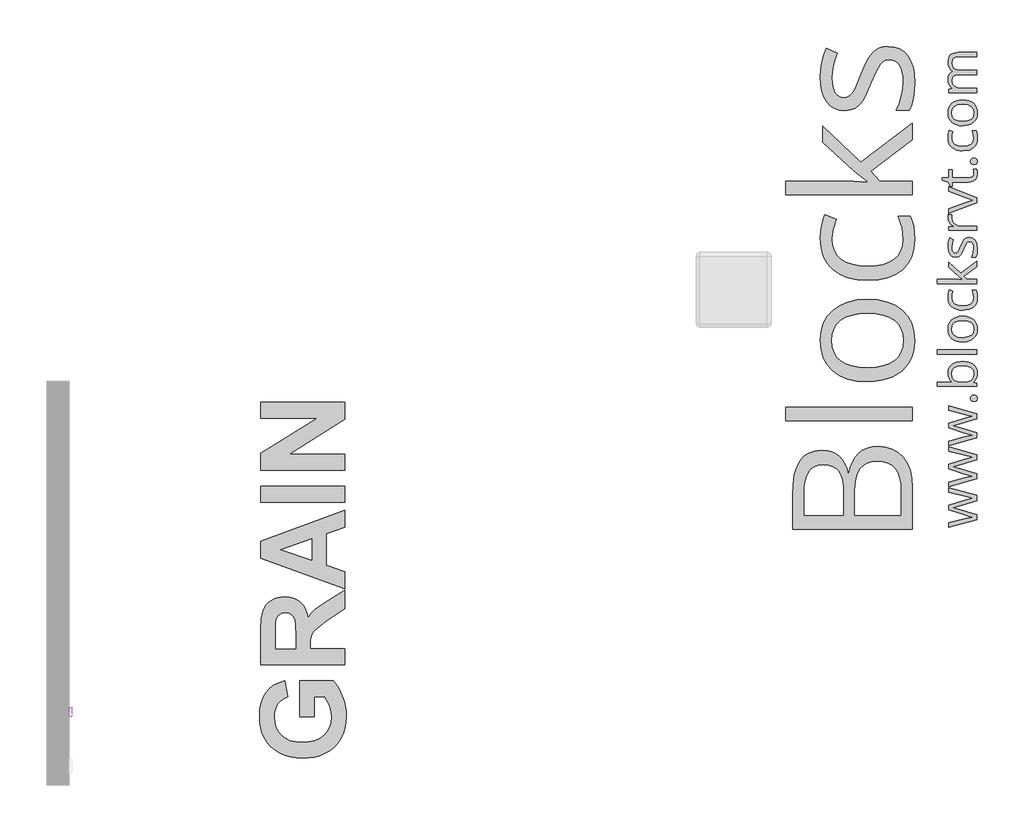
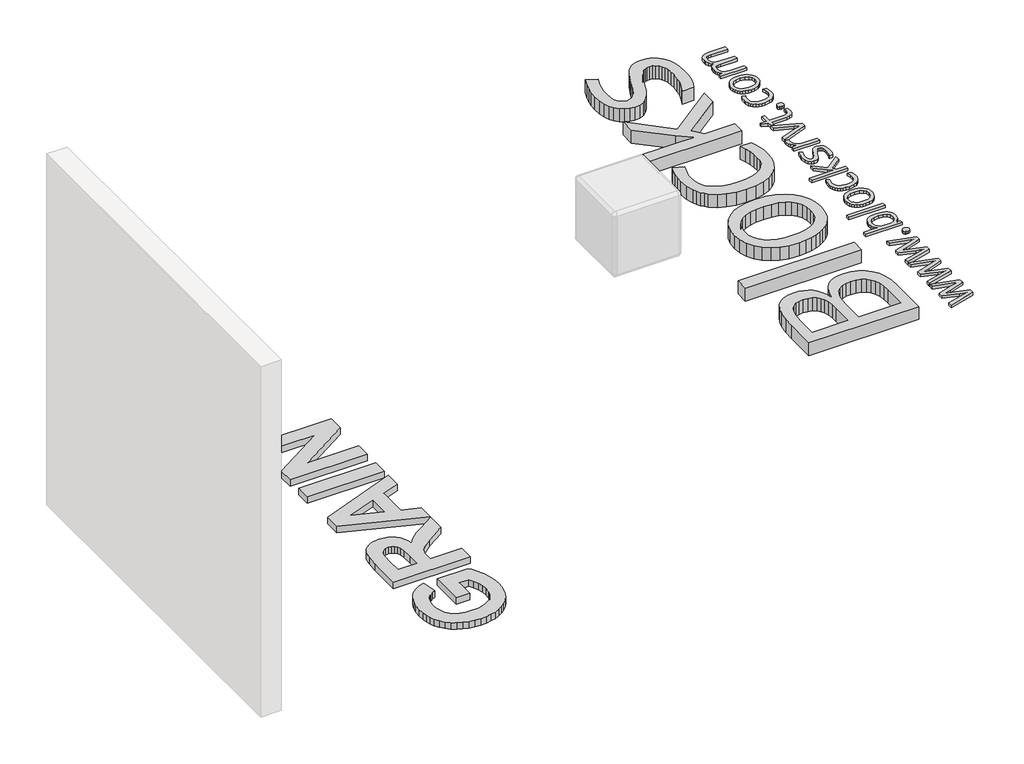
# One storey, part 10 of 10: 4 proxies.
"""IFC4 building model written with IfcOpenShell, lengths in millimetres."""

from ifc_helpers import new_model, si_unit, frame, origin, origin_with_axes, place, context, project, spatial, polyline, outline, extrude, element, save

model = new_model("IFC4")

# Units and contexts
model_context = context("Model", 3, world=origin())
ifc_project = project(units=[si_unit("LENGTHUNIT", "METRE", prefix="MILLI")], contexts=[model_context])

# Site, building, storey
site = spatial("IfcSite", under=ifc_project)
building = spatial("IfcBuilding", under=site)
storey = spatial("IfcBuildingStorey", under=building, Name="PORTOBELLO - SHOWROOM", Elevation=0.0)

# Proxies
placement = place(None, origin())
element("IfcBuildingElementProxy", 1, Name="10mm Arial Narrow", ObjectType="10mm Arial Narrow", at=placement, inside=storey, context=model_context, shape_type="SweptSolid", body=[
    extrude(outline(polyline([(5859.3713743, 2518.4745677), (5859.3713743, 2619.1931714), (5890.6682589, 2619.1931714), (5906.9639605, 2617.3148507), (5918.4369466, 2607.8344075), (5922.726625, 2590.8152987), (5920.9403166, 2578.7394731), (5915.5813914, 2569.1130794), (5905.8376026, 2562.811821), (5890.8967034, 2560.7114015), (5869.1183359, 2560.7114015), (5869.1183359, 2518.4745677), (5859.3713743, 2518.4745677)]), holes=[polyline([(5869.1183359, 2572.0828568), (5892.0896909, 2572.0828568), (5907.9538863, 2576.613671), (5912.9796634, 2590.2822617), (5910.5048489, 2600.4480381), (5904.52722, 2606.247988), (5891.8612464, 2607.8217162), (5869.1183359, 2607.8217162), (5869.1183359, 2572.0828568)])]), frame((-23726.2609603, 0.0, 0.0), z_axis=(1.0, 0.0, 0.0), x_axis=(0.0, 1.0, 0.0)), (0.0, 0.0, 1.0), 20.0),
    extrude(outline(polyline([(5930.8490931, 2555.0256739), (5932.8035619, 2571.6164494), (5938.6669685, 2583.5685342), (5947.5255353, 2590.7930888), (5958.4654844, 2593.2012737), (5969.27852, 2590.7930888), (5978.1624694, 2583.5685342), (5984.1020242, 2571.8068198), (5986.0818758, 2555.7871552), (5984.1369254, 2538.6252687), (5978.3020743, 2526.4828135), (5969.4530261, 2519.2582589), (5958.4654844, 2516.8500741), (5947.6048562, 2519.2646046), (5938.7304253, 2526.5081962), (5932.8194261, 2538.4666267), (5930.8490931, 2555.0256739)]), holes=[polyline([(5940.5960547, 2555.0510566), (5941.9000916, 2542.4993052), (5945.8122022, 2533.6280471), (5951.6533989, 2528.3547886), (5958.7446942, 2526.5970357), (5965.4647674, 2528.3706528), (5971.1568407, 2533.6915039), (5975.0403958, 2542.5786262), (5976.3349141, 2555.0510566), (5975.0308772, 2567.5647339), (5971.1187667, 2576.4233006), (5965.2775699, 2581.6965592), (5958.1862746, 2583.454312), (5951.4186088, 2581.6870407), (5945.736054, 2576.3852265), (5941.8810545, 2567.5171413), (5940.5960547, 2555.0510566)])]), frame((-23726.2609603, 0.0, 0.0), z_axis=(1.0, 0.0, 0.0), x_axis=(0.0, 1.0, 0.0)), (0.0, 0.0, 1.0), 20.0),
    extrude(outline(polyline([(6057.5595946, 2526.5970357), (6059.1840882, 2516.8500741), (6051.8231015, 2516.8500741), (6043.5483372, 2518.9695306), (6039.233276, 2524.7694804), (6038.0656712, 2539.4153056), (6038.0656712, 2581.8298184), (6029.9432032, 2581.8298184), (6029.9432032, 2585.0788056), (6028.3187096, 2580.2053248), (6020.7546612, 2581.8298184), (6014.6755015, 2579.5073002), (6010.8046379, 2573.0220171), (6008.8247863, 2557.6147106), (6008.8247863, 2518.4745677), (5999.0778246, 2518.4745677), (5999.0778246, 2591.5767801), (6008.8247863, 2591.5767801), (6008.8247863, 2581.8805838), (6015.0689336, 2590.967595), (6021.4653772, 2593.2012737), (6029.9432032, 2591.5767801), (6038.0656712, 2591.5767801), (6038.0656712, 2607.8217162), (6047.8126329, 2615.9441842), (6047.8126329, 2591.5767801), (6057.5595946, 2591.5767801), (6057.5595946, 2581.8298184), (6047.8126329, 2581.8298184), (6047.8126329, 2537.1816269), (6048.6756451, 2529.1860724), (6053.2952988, 2526.5970357), (6057.5595946, 2526.5970357)])), frame((-23726.2609603, 0.0, 0.0), z_axis=(1.0, 0.0, 0.0), x_axis=(0.0, 1.0, 0.0)), (0.0, 0.0, 1.0), 20.0),
    extrude(outline(polyline([(6064.057569, 2555.0256739), (6066.0120379, 2571.6164494), (6071.8754445, 2583.5685342), (6080.7340112, 2590.7930888), (6091.6739603, 2593.2012737), (6102.4869959, 2590.7930888), (6111.3709453, 2583.5685342), (6117.3105001, 2571.8068198), (6119.2903517, 2555.7871552), (6117.3454013, 2538.6252687), (6111.5105503, 2526.4828135), (6102.6615021, 2519.2582589), (6091.6739603, 2516.8500741), (6080.8133322, 2519.2646046), (6071.9389013, 2526.5081962), (6066.0279021, 2538.4666267), (6064.057569, 2555.0256739)]), holes=[polyline([(6073.8045306, 2555.0510566), (6075.1085675, 2542.4993052), (6079.0206781, 2533.6280471), (6084.8618748, 2528.3547886), (6091.9531702, 2526.5970357), (6098.6732433, 2528.3706528), (6104.3653167, 2533.6915039), (6108.2488717, 2542.5786262), (6109.54339, 2555.0510566), (6108.2393532, 2567.5647339), (6104.3272426, 2576.4233006), (6098.4860458, 2581.6965592), (6091.3947505, 2583.454312), (6084.6270847, 2581.6870407), (6078.94453, 2576.3852265), (6075.0895305, 2567.5171413), (6073.8045306, 2555.0510566)])]), frame((-23726.2609603, 0.0, 0.0), z_axis=(1.0, 0.0, 0.0), x_axis=(0.0, 1.0, 0.0)), (0.0, 0.0, 1.0), 20.0),
    extrude(outline(polyline([(6142.0332622, 2518.4745677), (6132.2863006, 2518.4745677), (6132.2863006, 2619.1931714), (6142.0332622, 2619.1931714), (6142.0332622, 2583.7842873), (6149.4323229, 2590.8660641), (6158.6335563, 2593.2012737), (6171.5152829, 2589.0004347), (6180.7926644, 2576.2710043), (6184.270096, 2555.5840935), (6182.337837, 2539.1297501), (6176.54106, 2526.927011), (6168.1679377, 2519.3693083), (6158.5066427, 2516.8500741), (6149.1658045, 2519.4644935), (6142.0332622, 2527.2316035), (6142.0332622, 2518.4745677)]), holes=[polyline([(6142.0332622, 2555.5840935), (6144.1146447, 2538.3365403), (6150.003434, 2529.6048872), (6158.4558773, 2526.5970357), (6164.3986049, 2528.3865169), (6169.6369622, 2533.7549607), (6174.5231344, 2555.1779701), (6169.8146412, 2576.613671), (6164.5699382, 2581.7441518), (6158.2528156, 2583.454312), (6152.2751868, 2581.6648308), (6146.9828912, 2576.2963871), (6142.0332622, 2555.5840935)])]), frame((-23726.2609603, 0.0, 0.0), z_axis=(1.0, 0.0, 0.0), x_axis=(0.0, 1.0, 0.0)), (0.0, 0.0, 1.0), 20.0),
    extrude(outline(polyline([(6236.2538915, 2541.2174782), (6246.0008532, 2539.5929846), (6242.3013228, 2529.706418), (6236.4823359, 2522.5865671), (6228.7786827, 2518.2841973), (6219.4251531, 2516.8500741), (6207.8315991, 2519.2646046), (6198.6874768, 2526.5081962), (6192.7479221, 2538.3143304), (6190.7680705, 2554.4164888), (6192.7574406, 2571.0834124), (6198.7255509, 2583.2639417), (6207.7395867, 2590.7169407), (6218.8667334, 2593.2012737), (6229.5496826, 2590.8026073), (6238.2971999, 2583.6066083), (6244.132051, 2571.8671037), (6246.0770013, 2555.8379207), (6246.0008532, 2552.5889335), (6200.5150321, 2552.5889335), (6206.5180437, 2533.1457756), (6212.4480799, 2528.2342207), (6219.5520666, 2526.5970357), (6229.7305344, 2530.2521463), (6236.2538915, 2541.2174782)]), holes=[polyline([(6201.1749827, 2562.3358951), (6236.2538915, 2562.3358951), (6231.9895958, 2576.6009796), (6226.1642633, 2581.7409789), (6218.9428815, 2583.454312), (6206.7337967, 2577.7432017), (6201.1749827, 2562.3358951)])]), frame((-23726.2609603, 0.0, 0.0), z_axis=(1.0, 0.0, 0.0), x_axis=(0.0, 1.0, 0.0)), (0.0, 0.0, 1.0), 20.0),
    extrude(outline(polyline([(-23706.2609603, 6268.7437637), (-23706.2609603, 6258.9968021), (-23726.2609603, 6258.9968021), (-23726.2609603, 6268.7437637), (-23706.2609603, 6268.7437637)])), frame((0.0, 0.0, 2518.4745677), z_axis=(0.0, 0.0, 1.0), x_axis=(1.0, 0.0, 0.0)), (0.0, 0.0, 1.0), 100.7186038),
    extrude(outline(polyline([(-23706.2609603, 6294.7356615), (-23706.2609603, 6284.9886998), (-23726.2609603, 6284.9886998), (-23726.2609603, 6294.7356615), (-23706.2609603, 6294.7356615)])), frame((0.0, 0.0, 2518.4745677), z_axis=(0.0, 0.0, 1.0), x_axis=(1.0, 0.0, 0.0)), (0.0, 0.0, 1.0), 100.7186038),
    extrude(outline(polyline([(6306.1071167, 2555.0256739), (6308.0615856, 2571.6164494), (6313.9249922, 2583.5685342), (6322.7835589, 2590.7930888), (6333.7235081, 2593.2012737), (6344.5365437, 2590.7930888), (6353.4204931, 2583.5685342), (6359.3600478, 2571.8068198), (6361.3398994, 2555.7871552), (6359.3949491, 2538.6252687), (6353.560098, 2526.4828135), (6344.7110498, 2519.2582589), (6333.7235081, 2516.8500741), (6322.8628799, 2519.2646046), (6313.988449, 2526.5081962), (6308.0774498, 2538.4666267), (6306.1071167, 2555.0256739)]), holes=[polyline([(6315.8540784, 2555.0510566), (6317.1581152, 2542.4993052), (6321.0702258, 2533.6280471), (6326.9114226, 2528.3547886), (6334.0027179, 2526.5970357), (6340.7227911, 2528.3706528), (6346.4148644, 2533.6915039), (6350.2984194, 2542.5786262), (6351.5929378, 2555.0510566), (6350.2889009, 2567.5647339), (6346.3767903, 2576.4233006), (6340.5355936, 2581.6965592), (6333.4442982, 2583.454312), (6326.6766325, 2581.6870407), (6320.9940777, 2576.3852265), (6317.1390782, 2567.5171413), (6315.8540784, 2555.0510566)])]), frame((-23726.2609603, 0.0, 0.0), z_axis=(1.0, 0.0, 0.0), x_axis=(0.0, 1.0, 0.0)), (0.0, 0.0, 1.0), 20.0),
])
element("IfcBuildingElementProxy", 2, Name="25mm OpenSans", ObjectType="25mm OpenSans", at=placement, inside=storey, context=model_context, shape_type="SweptSolid", body=[
    extrude(outline(polyline([(-17663.6650002, 7304.8592134), (-17773.4766436, 7270.379107), (-17819.200263, 7258.1611562), (-17773.1018598, 7244.7438974), (-17663.6650002, 7209.2143964), (-17663.6650002, 7176.3083818), (-17850.757056, 7124.9630059), (-17850.757056, 7154.7957937), (-17743.4189856, 7182.5297923), (-17693.7226582, 7193.4734783), (-17718.9081273, 7200.8941968), (-17743.4189856, 7208.2399586), (-17850.757056, 7242.7200651), (-17850.757056, 7273.6022474), (-17743.3440288, 7307.2578295), (-17694.0224852, 7320.3003046), (-17712.9865438, 7325.3973638), (-17850.757056, 7361.151735), (-17850.757056, 7390.6846958), (-17663.6650002, 7338.6647091), (-17663.6650002, 7304.8592134)])), origin_with_axes(), (0.0, 0.0, 1.0), 20.0),
    extrude(outline(polyline([(-17663.6650002, 7578.3014488), (-17773.4766436, 7543.8213424), (-17819.200263, 7531.6033916), (-17773.1018598, 7518.1861328), (-17663.6650002, 7482.6566319), (-17663.6650002, 7449.7506172), (-17850.757056, 7398.4052413), (-17850.757056, 7428.2380291), (-17743.4189856, 7455.9720277), (-17693.7226582, 7466.9157137), (-17718.9081273, 7474.3364323), (-17743.4189856, 7481.6821941), (-17850.757056, 7516.1623005), (-17850.757056, 7547.0444828), (-17743.3440288, 7580.7000649), (-17694.0224852, 7593.74254), (-17712.9865438, 7598.8395992), (-17850.757056, 7634.5939704), (-17850.757056, 7664.1269312), (-17663.6650002, 7612.1069445), (-17663.6650002, 7578.3014488)])), origin_with_axes(), (0.0, 0.0, 1.0), 20.0),
    extrude(outline(polyline([(-17663.6650002, 7851.7436843), (-17773.4766436, 7817.2635778), (-17819.200263, 7805.0456271), (-17773.1018598, 7791.6283683), (-17663.6650002, 7756.0988673), (-17663.6650002, 7723.1928527), (-17850.757056, 7671.8474768), (-17850.757056, 7701.6802645), (-17743.4189856, 7729.4142632), (-17693.7226582, 7740.3579491), (-17718.9081273, 7747.7786677), (-17743.4189856, 7755.1244295), (-17850.757056, 7789.6045359), (-17850.757056, 7820.4867182), (-17743.3440288, 7854.1423004), (-17694.0224852, 7867.1847754), (-17712.9865438, 7872.2818346), (-17850.757056, 7908.0362059), (-17850.757056, 7937.5691666), (-17663.6650002, 7885.5491799), (-17663.6650002, 7851.7436843)])), origin_with_axes(), (0.0, 0.0, 1.0), 20.0),
    extrude(outline(polyline([(-17682.7789723, 7966.7273436), (-17693.1885914, 7968.0297172), (-17700.7311146, 7971.9368379), (-17705.3128462, 7978.2800531), (-17706.84009, 7986.8907102), (-17705.3128462, 7995.7543462), (-17700.7311146, 8002.4067581), (-17693.1885914, 8006.5668579), (-17682.7789723, 8007.9535578), (-17672.5754842, 8006.5387491), (-17665.0517002, 8002.2943229), (-17660.4137511, 7995.6138023), (-17658.867768, 7986.8907102), (-17664.4520461, 7972.4615352), (-17671.8259167, 7968.1608915), (-17682.7789723, 7966.7273436)])), origin_with_axes(), (0.0, 0.0, 1.0), 20.0),
    extrude(outline(polyline([(-17855.5542882, 8155.0936642), (-17853.95443, 8172.67805), (-17849.1548554, 8188.1777011), (-17841.1555644, 8201.5926175), (-17829.956557, 8212.9227992), (-17815.8342363, 8221.9246368), (-17799.0650052, 8228.3545208), (-17757.5858119, 8233.498428), (-17715.9660747, 8228.3076728), (-17699.0773813, 8221.8192289), (-17684.8028046, 8212.7354074), (-17673.4562261, 8201.3513505), (-17665.3515272, 8187.9622004), (-17660.4887078, 8172.5679573), (-17658.867768, 8155.1686209), (-17660.5824037, 8137.5256752), (-17665.7263109, 8121.4755604), (-17674.4306639, 8107.4680172), (-17686.8266369, 8095.952786), (-17686.8266369, 8093.8539969), (-17663.6650002, 8087.8574566), (-17663.6650002, 8067.5441765), (-17927.5127712, 8067.5441765), (-17927.5127712, 8095.8778292), (-17864.9238824, 8095.8778292), (-17827.1456788, 8094.5286077), (-17839.5744454, 8107.0838638), (-17848.4521359, 8120.6885145), (-17853.7787501, 8136.6917813), (-17855.5542882, 8155.0936642)]), holes=[polyline([(-17831.5681272, 8151.1209563), (-17827.3330707, 8125.8511609), (-17814.627901, 8108.8078691), (-17791.8972656, 8099.1103392), (-17757.5858119, 8095.8778292), (-17723.1338142, 8099.2040351), (-17700.1314606, 8109.1826529), (-17687.1733119, 8126.4882933), (-17682.853929, 8151.7955671), (-17687.6980092, 8174.8728774), (-17702.2302497, 8191.1853408), (-17725.8322573, 8200.8828708), (-17757.8856389, 8204.1153807), (-17790.3325434, 8200.8828708), (-17813.3161578, 8191.1853408), (-17827.0051349, 8174.7042247), (-17831.5681272, 8151.1209563)])]), origin_with_axes(), (0.0, 0.0, 1.0), 20.0),
    extrude(outline(polyline([(-17663.6650002, 8310.7788404), (-17663.6650002, 8282.4451878), (-17927.5127712, 8282.4451878), (-17927.5127712, 8310.7788404), (-17663.6650002, 8310.7788404)])), origin_with_axes(), (0.0, 0.0, 1.0), 20.0),
    extrude(outline(polyline([(-17757.3609416, 8535.7240566), (-17735.4337489, 8534.2834815), (-17716.0504011, 8529.9617562), (-17699.210898, 8522.7588807), (-17684.9152397, 8512.674855), (-17673.5194709, 8500.0563541), (-17665.3796359, 8485.250053), (-17660.495735, 8468.2559516), (-17658.867768, 8449.07405), (-17661.8566685, 8425.3783464), (-17670.8233701, 8404.5122602), (-17685.3743498, 8387.2815766), (-17705.1160847, 8374.4920806), (-17729.3458551, 8366.565404), (-17757.3609416, 8363.9231784), (-17779.2787647, 8365.3520415), (-17798.6340038, 8369.6386308), (-17815.4266589, 8376.7829464), (-17829.65673, 8386.7849881), (-17840.9869117, 8399.3261899), (-17849.0798987, 8414.0879854), (-17853.9356908, 8431.0703748), (-17855.5542882, 8450.273358), (-17853.8982125, 8468.86966), (-17848.9299852, 8485.456184), (-17840.6496064, 8500.0329301), (-17829.057076, 8512.5998983), (-17814.639613, 8522.7167175), (-17797.8844363, 8529.943017), (-17778.7915458, 8534.2787967), (-17757.3609416, 8535.7240566)]), holes=[polyline([(-17757.5858119, 8393.3811824), (-17725.4293648, 8396.9603674), (-17701.9679011, 8407.6979222), (-17687.632422, 8425.3689768), (-17682.853929, 8449.7486608), (-17687.6136828, 8474.1470839), (-17701.8929443, 8491.874356), (-17725.3356689, 8502.6681285), (-17757.5858119, 8506.2660526), (-17789.5080191, 8502.6681285), (-17812.7165038, 8491.874356), (-17826.8552214, 8474.053388), (-17831.5681272, 8449.373877), (-17826.9208085, 8425.041041), (-17812.9788525, 8407.5105304), (-17789.8359549, 8396.9135194), (-17757.5858119, 8393.3811824)])]), origin_with_axes(), (0.0, 0.0, 1.0), 20.0),
    extrude(outline(polyline([(-17658.867768, 8661.1267046), (-17660.4535718, 8641.7831775), (-17665.2109833, 8624.7539401), (-17673.1400023, 8610.0389925), (-17684.240629, 8597.6383347), (-17698.241145, 8587.8002608), (-17714.8698322, 8580.7730652), (-17756.0117201, 8575.1513087), (-17778.4589252, 8576.5778294), (-17798.2030025, 8580.8573916), (-17815.2439518, 8587.9899951), (-17829.5817733, 8597.9756401), (-17840.9447486, 8610.5988258), (-17849.0611595, 8625.6440516), (-17853.931006, 8643.1113174), (-17855.5542882, 8663.0006234), (-17852.7808884, 8690.2474032), (-17846.2596508, 8711.5725994), (-17822.7981871, 8702.8026593), (-17829.057076, 8682.0771171), (-17831.5681272, 8662.2510559), (-17826.8786454, 8637.0327932), (-17812.8101998, 8619.0197485), (-17789.3627904, 8608.2119217), (-17756.5364173, 8604.6093127), (-17725.0733202, 8608.1229105), (-17701.8929443, 8618.6637039), (-17687.6136828, 8636.1005186), (-17682.853929, 8660.3021803), (-17685.3837194, 8684.2696021), (-17692.9730907, 8708.7991996), (-17668.3123189, 8708.7991996), (-17661.2289057, 8687.3990466), (-17658.867768, 8661.1267046)])), origin_with_axes(), (0.0, 0.0, 1.0), 20.0),
    extrude(outline(polyline([(-17757.5108551, 8780.3828988), (-17785.3947673, 8803.2447085), (-17850.757056, 8863.210111), (-17850.757056, 8896.5658662), (-17771.0030707, 8821.309286), (-17663.6650002, 8901.8128389), (-17663.6650002, 8867.7075162), (-17750.0151798, 8802.1203572), (-17732.0255591, 8781.1324663), (-17663.6650002, 8781.1324663), (-17663.6650002, 8753.0986407), (-17927.5127712, 8753.0986407), (-17927.5127712, 8781.1324663), (-17786.5191186, 8781.1324663), (-17757.5108551, 8780.3828988)])), origin_with_axes(), (0.0, 0.0, 1.0), 20.0),
    extrude(outline(polyline([(-17714.1108951, 9062.0703771), (-17690.6213226, 9057.1700793), (-17673.2219862, 9042.4691861), (-17662.4563226, 9018.9233961), (-17658.867768, 8987.4884077), (-17661.8285598, 8954.1888701), (-17670.710935, 8929.097097), (-17697.2456256, 8929.097097), (-17686.7142018, 8958.255274), (-17682.853929, 8988.2379752), (-17684.6341519, 9008.0546669), (-17689.9748206, 9022.6806033), (-17698.9696309, 9031.7035225), (-17711.712279, 9034.7111622), (-17722.0000933, 9032.3219157), (-17730.6763375, 9025.1541762), (-17749.2656123, 8987.9381482), (-17766.5056655, 8950.5347284), (-17783.1835431, 8934.0067644), (-17805.5581339, 8928.5723998), (-17826.2836761, 8933.2571968), (-17842.1370294, 8947.311588), (-17852.1999735, 8969.5362653), (-17855.5542882, 8998.7319207), (-17852.443583, 9028.7708395), (-17843.1114672, 9058.1726259), (-17819.9498305, 9047.9785075), (-17828.663553, 9020.9191196), (-17831.5681272, 8996.5581748), (-17829.9659266, 8978.7372068), (-17825.1593248, 8965.9008628), (-17817.5231056, 8958.1428389), (-17807.4320527, 8955.5568309), (-17794.4270561, 8959.4171037), (-17784.2329376, 8971.8974031), (-17770.1785464, 9004.9533312), (-17757.8481605, 9033.0340048), (-17745.4428179, 9050.2646885), (-17731.3884267, 9059.1189549), (-17714.1108951, 9062.0703771)])), origin_with_axes(), (0.0, 0.0, 1.0), 20.0),
    extrude(outline(polyline([(-17855.5542882, 9194.5189599), (-17853.6803694, 9217.1558993), (-17829.0195976, 9213.1831914), (-17831.5681272, 9192.4951275), (-17826.8739606, 9171.1605617), (-17812.7914606, 9153.1803105), (-17791.7005042, 9140.9529902), (-17765.9809682, 9136.8772167), (-17663.6650002, 9136.8772167), (-17663.6650002, 9108.543564), (-17850.757056, 9108.543564), (-17850.757056, 9131.930071), (-17817.1764306, 9135.1532114), (-17833.4982636, 9148.1394689), (-17845.5850401, 9161.9127723), (-17853.0619762, 9177.4850377), (-17855.5542882, 9194.5189599)])), origin_with_axes(), (0.0, 0.0, 1.0), 20.0),
    extrude(outline(polyline([(-17663.6650002, 9294.1364848), (-17850.757056, 9222.1780018), (-17850.757056, 9252.9852273), (-17739.8210614, 9293.8366578), (-17689.3002098, 9310.0273164), (-17726.7785864, 9323.4445752), (-17850.757056, 9368.8683676), (-17850.757056, 9399.6755932), (-17663.6650002, 9327.7171102), (-17663.6650002, 9294.1364848)])), origin_with_axes(), (0.0, 0.0, 1.0), 20.0),
    extrude(outline(polyline([(-17682.853929, 9491.0478752), (-17683.9782803, 9505.7393989), (-17686.3019397, 9516.9829118), (-17664.1147407, 9516.9829118), (-17660.3669031, 9503.265826), (-17658.867768, 9487.0002106), (-17662.4282138, 9462.9953104), (-17673.1095511, 9445.8489531), (-17690.91178, 9435.5611387), (-17715.8349004, 9432.1318673), (-17826.770895, 9432.1318673), (-17826.770895, 9404.9975227), (-17840.7878079, 9404.9975227), (-17852.9308019, 9431.9819538), (-17893.9321458, 9444.049991), (-17893.9321458, 9460.5404767), (-17850.757056, 9460.5404767), (-17850.757056, 9515.6336903), (-17826.770895, 9515.6336903), (-17826.770895, 9460.5404767), (-17717.5589057, 9460.5404767), (-17702.7268382, 9462.5736787), (-17691.811261, 9468.6732844), (-17685.093262, 9478.333336), (-17682.853929, 9491.0478752)])), origin_with_axes(), (0.0, 0.0, 1.0), 20.0),
    extrude(outline(polyline([(-17682.7789723, 9549.8139697), (-17693.1885914, 9551.1163433), (-17700.7311146, 9555.023464), (-17705.3128462, 9561.3666793), (-17706.84009, 9569.9773363), (-17705.3128462, 9578.8409724), (-17700.7311146, 9585.4933842), (-17693.1885914, 9589.653484), (-17682.7789723, 9591.0401839), (-17672.5754842, 9589.6253752), (-17665.0517002, 9585.3809491), (-17660.4137511, 9578.7004284), (-17658.867768, 9569.9773363), (-17664.4520461, 9555.5481613), (-17671.8259167, 9551.2475176), (-17682.7789723, 9549.8139697)])), origin_with_axes(), (0.0, 0.0, 1.0), 20.0),
    extrude(outline(polyline([(-17658.867768, 9726.1122531), (-17660.4535718, 9706.768726), (-17665.2109833, 9689.7394886), (-17673.1400023, 9675.024541), (-17684.240629, 9662.6238832), (-17698.241145, 9652.7858093), (-17714.8698322, 9645.7586137), (-17756.0117201, 9640.1368572), (-17778.4589252, 9641.5633779), (-17798.2030025, 9645.8429401), (-17815.2439518, 9652.9755436), (-17829.5817733, 9662.9611886), (-17840.9447486, 9675.5843743), (-17849.0611595, 9690.6296001), (-17853.931006, 9708.0968659), (-17855.5542882, 9727.9861719), (-17852.7808884, 9755.2329517), (-17846.2596508, 9776.5581479), (-17822.7981871, 9767.7882078), (-17829.057076, 9747.0626656), (-17831.5681272, 9727.2366044), (-17826.8786454, 9702.0183417), (-17812.8101998, 9684.005297), (-17789.3627904, 9673.1974702), (-17756.5364173, 9669.5948612), (-17725.0733202, 9673.108459), (-17701.8929443, 9683.6492524), (-17687.6136828, 9701.0860671), (-17682.853929, 9725.2877288), (-17685.3837194, 9749.2551506), (-17692.9730907, 9773.7847481), (-17668.3123189, 9773.7847481), (-17661.2289057, 9752.384595), (-17658.867768, 9726.1122531)])), origin_with_axes(), (0.0, 0.0, 1.0), 20.0),
    extrude(outline(polyline([(-17757.3609416, 9979.6909489), (-17735.4337489, 9978.2503738), (-17716.0504011, 9973.9286485), (-17699.210898, 9966.725773), (-17684.9152397, 9956.6417473), (-17673.5194709, 9944.0232464), (-17665.3796359, 9929.2169453), (-17660.495735, 9912.2228439), (-17658.867768, 9893.0409423), (-17661.8566685, 9869.3452387), (-17670.8233701, 9848.4791526), (-17685.3743498, 9831.2484689), (-17705.1160847, 9818.4589729), (-17729.3458551, 9810.5322963), (-17757.3609416, 9807.8900707), (-17779.2787647, 9809.3189338), (-17798.6340038, 9813.6055232), (-17815.4266589, 9820.7498387), (-17829.65673, 9830.7518804), (-17840.9869117, 9843.2930822), (-17849.0798987, 9858.0548778), (-17853.9356908, 9875.0372671), (-17855.5542882, 9894.2402503), (-17853.8982125, 9912.8365523), (-17848.9299852, 9929.4230763), (-17840.6496064, 9943.9998224), (-17829.057076, 9956.5667906), (-17814.639613, 9966.6836098), (-17797.8844363, 9973.9099093), (-17778.7915458, 9978.245689), (-17757.3609416, 9979.6909489)]), holes=[polyline([(-17757.5858119, 9837.3480747), (-17725.4293648, 9840.9272597), (-17701.9679011, 9851.6648146), (-17687.632422, 9869.3358691), (-17682.853929, 9893.7155531), (-17687.6136828, 9918.1139762), (-17701.8929443, 9935.8412483), (-17725.3356689, 9946.6350208), (-17757.5858119, 9950.2329449), (-17789.5080191, 9946.6350208), (-17812.7165038, 9935.8412483), (-17826.8552214, 9918.0202803), (-17831.5681272, 9893.3407693), (-17826.9208085, 9869.0079333), (-17812.9788525, 9851.4774227), (-17789.8359549, 9840.8804117), (-17757.5858119, 9837.3480747)])]), origin_with_axes(), (0.0, 0.0, 1.0), 20.0),
    extrude(outline(polyline([(-17663.6650002, 10268.724189), (-17786.4441618, 10268.724189), (-17806.1858967, 10266.3255729), (-17820.2871359, 10259.1297246), (-17828.7478794, 10246.8742954), (-17831.5681272, 10229.2969368), (-17827.7359632, 10206.2289961), (-17816.2394712, 10190.094555), (-17796.7788242, 10180.5937865), (-17769.0541951, 10177.4268637), (-17663.6650002, 10177.4268637), (-17663.6650002, 10149.0182542), (-17786.4441618, 10149.0182542), (-17806.1858967, 10146.6196381), (-17820.2871359, 10139.4237898), (-17828.7478794, 10127.1308823), (-17831.5681272, 10109.4410886), (-17827.5392018, 10086.2607127), (-17815.4524253, 10070.2387067), (-17794.2021858, 10060.9065909), (-17762.6828711, 10057.7958857), (-17663.6650002, 10057.7958857), (-17663.6650002, 10029.462233), (-17850.757056, 10029.462233), (-17850.757056, 10052.548913), (-17826.770895, 10057.1212749), (-17838.8483019, 10068.2055048), (-17847.9461778, 10081.219871), (-17853.6522606, 10096.7452885), (-17855.5542882, 10114.0134505), (-17853.5866735, 10134.11123), (-17847.6838292, 10150.4049542), (-17837.8457553, 10162.8946232), (-17824.0724519, 10171.5802369), (-17837.0961878, 10183.2079033), (-17847.0841751, 10197.2529249), (-17853.43676, 10214.2962166), (-17855.5542882, 10233.5694718), (-17851.450406, 10261.4252751), (-17839.1387593, 10281.2794451), (-17817.7948238, 10293.1694601), (-17786.5940754, 10297.1327984), (-17663.6650002, 10297.1327984), (-17663.6650002, 10268.724189)])), origin_with_axes(), (0.0, 0.0, 1.0), 20.0),
])
element("IfcBuildingElementProxy", 3, Name="550mm Arial", ObjectType="550mm Arial", at=placement, inside=storey, context=model_context, shape_type="SweptSolid", body=[
    extrude(outline(polyline([(-22088.2630744, 5859.5242872), (-22186.240366, 5859.5242872), (-22186.240366, 6100.0140029), (-21962.451325, 6100.0140029), (-21945.511448, 6080.5124859), (-21929.6240613, 6057.0793517), (-21901.0067594, 5998.4182318), (-21889.4076189, 5965.0516755), (-21881.1225185, 5931.4763607), (-21876.1514583, 5897.6922875), (-21874.4944383, 5863.6994559), (-21876.7994793, 5821.7998986), (-21883.7146024, 5782.6663905), (-21895.2398076, 5746.2989317), (-21911.3750949, 5712.6975222), (-21931.7942792, 5682.4797389), (-21956.1711755, 5656.2631589), (-21984.5057837, 5634.0477822), (-22016.7981039, 5615.8336089), (-22051.8216803, 5601.6467337), (-22088.3500571, 5591.5132513), (-22126.3832343, 5585.433162), (-22165.9212118, 5583.4064655), (-22208.4079022, 5585.6984591), (-22248.4677758, 5592.5744401), (-22286.1008326, 5604.0344082), (-22321.3070727, 5620.0783637), (-22353.3210483, 5640.5410393), (-22381.377312, 5665.2571681), (-22405.4758637, 5694.2267499), (-22425.6167034, 5727.4497848), (-22437.7942787, 5756.0322937), (-22446.4925468, 5787.9201445), (-22451.7115076, 5823.1133371), (-22453.4511613, 5861.6118716), (-22450.6416207, 5910.8832111), (-22442.2129989, 5954.457185), (-22428.165296, 5992.3337933), (-22408.4985118, 6024.5130361), (-22383.8737149, 6051.2297665), (-22354.9519736, 6072.7188377), (-22321.7332878, 6088.9802499), (-22284.2176576, 6100.0140029), (-22266.4036046, 5993.1296849), (-22285.9790569, 5985.5013038), (-22303.3712439, 5975.1416665), (-22318.5801656, 5962.050773), (-22331.6058221, 5946.2286234), (-22342.0480929, 5927.9709587), (-22349.5068578, 5907.5735201), (-22353.9821167, 5885.0363075), (-22355.4738697, 5860.359321), (-22352.5599499, 5823.3829834), (-22343.8181905, 5790.3904526), (-22329.2485914, 5761.3817286), (-22308.8511528, 5736.3568113), (-22282.7128572, 5716.2029242), (-22250.9206874, 5701.8072905), (-22213.4746434, 5693.1699103), (-22170.3747251, 5690.2907836), (-22123.9912106, 5693.1525138), (-22083.7921647, 5701.7377044), (-22049.7775874, 5716.0463554), (-22021.9474786, 5736.0784667), (-22000.3018385, 5760.7554533), (-21984.840667, 5788.9987297), (-21975.5639641, 5820.808296), (-21972.4717298, 5856.1841523), (-21975.8640544, 5892.873447), (-21986.041028, 5929.7367071), (-22001.0542387, 5964.0600729), (-22018.9552744, 5993.1296849), (-22088.2630744, 5993.1296849), (-22088.2630744, 5859.5242872)])), origin_with_axes(), (0.0, 0.0, 1.0), 50.0),
    extrude(outline(polyline([(-21883.4014648, 6206.898321), (-22444.5441347, 6206.898321), (-22444.5441347, 6442.9345235), (-22440.7516899, 6519.8272133), (-22429.3743552, 6572.3647524), (-22420.3107599, 6591.5357353), (-22408.2897534, 6608.6887199), (-22393.3113358, 6623.8237063), (-22375.375507, 6636.9406946), (-22355.256413, 6647.5351851), (-22333.7281995, 6655.1026783), (-22310.7908666, 6659.6431743), (-22286.4444142, 6661.1566729), (-22256.0961569, 6658.9690585), (-22228.5139489, 6652.4062152), (-22203.6977901, 6641.4681431), (-22181.6476805, 6626.1548422), (-22162.8942145, 6606.4837089), (-22147.9679865, 6582.4721399), (-22136.8689964, 6554.1201351), (-22129.5972443, 6521.4276946), (-22107.2600919, 6552.428322), (-22082.8353552, 6577.5141271), (-22047.4508006, 6603.4697591), (-21992.2341949, 6637.0798669), (-21883.4014648, 6705.6918055), (-21883.4014648, 6580.8542621), (-22011.5791431, 6499.5776452), (-22087.6367991, 6435.7671506), (-22100.8407701, 6418.0574768), (-22109.1389178, 6399.3040108), (-22113.5228449, 6374.4095676), (-22114.984154, 6338.276962), (-22114.984154, 6313.7826391), (-21883.4014648, 6313.7826391), (-21883.4014648, 6206.898321)]), holes=[polyline([(-22212.9614455, 6313.7826391), (-22212.9614455, 6401.8786982), (-22214.5793234, 6471.4126532), (-22219.432957, 6508.8326024), (-22228.2356043, 6527.864413), (-22241.7005233, 6542.2339518), (-22259.4623867, 6551.2627541), (-22281.1558672, 6554.2723548), (-22305.1804837, 6550.3059446), (-22324.0905185, 6538.4067139), (-22337.4336617, 6519.2705241), (-22344.7576034, 6493.5932367), (-22346.5668432, 6406.7497283), (-22346.5668432, 6313.7826391), (-22212.9614455, 6313.7826391)])]), origin_with_axes(), (0.0, 0.0, 1.0), 50.0),
    extrude(outline(polyline([(-21883.4014648, 7240.1133959), (-21883.4014648, 7127.8013585), (-22008.0998359, 7083.8229152), (-22008.0998359, 6871.8635187), (-21883.4014648, 6828.4417645), (-21883.4014648, 6714.598832), (-22444.5441347, 6919.4604416), (-22444.5441347, 7033.3033742), (-21883.4014648, 7240.1133959)]), holes=[polyline([(-22106.0771275, 7049.586532), (-22310.9387371, 6977.3561139), (-22106.0771275, 6906.0999019), (-22106.0771275, 7049.586532)])]), origin_with_axes(), (0.0, 0.0, 1.0), 50.0),
    extrude(outline(polyline([(-21883.4014648, 7293.555555), (-22444.5441347, 7293.555555), (-22444.5441347, 7400.439873), (-21883.4014648, 7400.439873), (-21883.4014648, 7293.555555)])), origin_with_axes(), (0.0, 0.0, 1.0), 50.0),
    extrude(outline(polyline([(-21883.4014648, 7507.3241911), (-22444.5441347, 7507.3241911), (-22444.5441347, 7619.3578839), (-22066.8305419, 7854.6982249), (-22444.5441347, 7854.6982249), (-22444.5441347, 7961.582543), (-21883.4014648, 7961.582543), (-21883.4014648, 7846.069543), (-22255.548166, 7614.2085092), (-21883.4014648, 7614.2085092), (-21883.4014648, 7507.3241911)])), origin_with_axes(), (0.0, 0.0, 1.0), 50.0),
])
element("IfcBuildingElementProxy", 4, Name="80mm OpenSans", ObjectType="80mm OpenSans", at=placement, inside=storey, context=model_context, shape_type="SweptSolid", body=[
    extrude(outline(polyline([(-18893.0484072, 7114.0050593), (-18893.0484072, 7338.9881799), (-18890.111428, 7412.8182778), (-18881.3004905, 7475.6666275), (-18866.6155947, 7527.533229), (-18846.0567405, 7568.4180823), (-18819.1582177, 7599.3878141), (-18785.454316, 7621.509051), (-18744.9450355, 7634.7817932), (-18697.6303762, 7639.2060406), (-18663.9715433, 7636.7347717), (-18633.422453, 7629.320965), (-18605.9831054, 7616.9646204), (-18581.6535005, 7599.6657379), (-18560.8693026, 7577.6346384), (-18544.0661762, 7551.0816426), (-18531.2441214, 7520.0067504), (-18522.403138, 7484.4099619), (-18517.1150732, 7484.4099619), (-18507.1999517, 7526.9435797), (-18493.1985983, 7563.8060485), (-18475.1110131, 7594.9973682), (-18452.9371959, 7620.5175389), (-18426.6771468, 7640.3665605), (-18396.3308659, 7654.5444331), (-18361.898353, 7663.0511567), (-18323.3796083, 7665.8867312), (-18272.1439691, 7661.3723464), (-18226.8423798, 7647.8291918), (-18187.4748406, 7625.2572674), (-18154.0413514, 7593.6565734), (-18127.3831952, 7553.9585301), (-18108.341655, 7507.0945581), (-18096.9167309, 7453.0646574), (-18093.1084229, 7391.8688279), (-18093.1084229, 7114.0050593), (-18893.0484072, 7114.0050593)]), holes=[polyline([(-18554.61226, 7207.0269265), (-18554.61226, 7358.9386062), (-18556.5427041, 7404.4204704), (-18562.3340364, 7443.036864), (-18571.986257, 7474.7877872), (-18585.4993658, 7499.6732399), (-18603.5794396, 7518.4443676), (-18626.9325553, 7531.852316), (-18655.5587129, 7539.8970851), (-18689.4579124, 7542.5786747), (-18720.6604993, 7539.5891154), (-18747.2059837, 7530.6204373), (-18769.0943655, 7515.6726405), (-18786.3256449, 7494.745725), (-18799.3655319, 7467.3138888), (-18808.679737, 7432.8513301), (-18814.26826, 7391.3580489), (-18816.131101, 7342.8340452), (-18816.131101, 7207.0269265), (-18554.61226, 7207.0269265)]), polyline([(-18477.6949538, 7207.0269265), (-18170.0257291, 7207.0269265), (-18170.0257291, 7372.6395014), (-18172.4369063, 7417.7457928), (-18179.6704382, 7456.9180341), (-18191.7263245, 7490.1562255), (-18208.6045655, 7517.4603669), (-18230.6056191, 7538.7553438), (-18258.0299438, 7553.9660416), (-18290.8775395, 7563.0924602), (-18329.1484062, 7566.1345998), (-18364.8428436, 7563.0248571), (-18395.4895828, 7553.6956291), (-18421.0886238, 7538.1469159), (-18441.6399665, 7516.3787173), (-18457.4140235, 7488.2708502), (-18468.681207, 7453.7031311), (-18475.4415171, 7412.6755602), (-18477.6949538, 7365.1881373), (-18477.6949538, 7207.0269265)])]), origin_with_axes(), (0.0, 0.0, 1.0), 100.0),
    extrude(outline(polyline([(-18093.1084229, 7927.6459388), (-18093.1084229, 7836.7873709), (-18939.1987909, 7836.7873709), (-18939.1987909, 7927.6459388), (-18093.1084229, 7927.6459388)])), origin_with_axes(), (0.0, 0.0, 1.0), 100.0),
    extrude(outline(polyline([(-18393.5666502, 8648.9860509), (-18323.2519135, 8644.3665057), (-18261.0946178, 8630.5078699), (-18207.0947629, 8607.4101437), (-18161.2523488, 8575.073327), (-18124.7091169, 8534.6091152), (-18098.6068084, 8487.1292039), (-18082.9454233, 8432.6335929), (-18077.7249616, 8371.1222823), (-18080.121116, 8331.9951097), (-18087.3095791, 8295.1363966), (-18099.2903509, 8260.5461432), (-18116.0634314, 8228.2243494), (-18137.3133396, 8198.8170004), (-18162.7245941, 8172.9700814), (-18192.2971952, 8150.6835924), (-18226.0311426, 8131.9575334), (-18263.3630774, 8117.1299199), (-18303.7296402, 8106.5387674), (-18347.1308311, 8100.1840759), (-18393.5666502, 8098.0658453), (-18463.851341, 8102.6478333), (-18525.9184993, 8116.3937972), (-18579.7681251, 8139.303737), (-18625.4002183, 8171.3776528), (-18661.7331295, 8211.5939865), (-18687.6852089, 8258.9311802), (-18703.2564565, 8313.3892339), (-18708.4468724, 8374.9681476), (-18703.1362732, 8434.6015943), (-18687.2044757, 8487.790212), (-18660.6514799, 8534.5340007), (-18623.4772857, 8574.8329604), (-18577.244276, 8607.2749375), (-18523.5148335, 8630.4477783), (-18462.2889582, 8644.3514827), (-18393.5666502, 8648.9860509)]), holes=[polyline([(-18394.2877499, 8192.529912), (-18339.2438027, 8195.3992881), (-18291.1704863, 8204.0074163), (-18250.0678008, 8218.3542966), (-18215.9357462, 8238.4399291), (-18189.1198494, 8264.0840388), (-18169.9656374, 8295.1063508), (-18158.4731102, 8331.506865), (-18154.6422678, 8373.2855815), (-18158.4580873, 8415.079321), (-18169.9055458, 8451.5249039), (-18188.9846432, 8482.6223305), (-18215.6953796, 8508.3716005), (-18249.7523197, 8528.5623934), (-18290.8700281, 8542.9843883), (-18339.0485048, 8551.6375853), (-18394.2877499, 8554.5219842), (-18448.9636358, 8551.6375853), (-18496.653868, 8542.9843883), (-18537.3584463, 8528.5623934), (-18571.0773709, 8508.3716005), (-18597.5252063, 8482.5472159), (-18616.4165174, 8451.2244457), (-18627.751304, 8414.4032899), (-18631.5295662, 8372.0837486), (-18627.8038842, 8330.3425894), (-18616.6268381, 8294.054747), (-18597.998428, 8263.2202214), (-18571.9186539, 8237.8390127), (-18538.4626303, 8218.0162811), (-18497.7054717, 8203.8571872), (-18449.6471783, 8195.3617308), (-18394.2877499, 8192.529912)])]), origin_with_axes(), (0.0, 0.0, 1.0), 100.0),
    extrude(outline(polyline([(-18077.7249616, 9051.1193423), (-18082.8102171, 8989.0897413), (-18098.0659836, 8934.4814585), (-18123.4922611, 8887.2944939), (-18159.0890496, 8847.5288475), (-18203.9850202, 8815.9807336), (-18257.3088441, 8793.4463666), (-18319.0605213, 8779.9257464), (-18389.2400517, 8775.4188729), (-18461.2223315, 8779.9933495), (-18524.5363914, 8793.716779), (-18579.1822315, 8816.5891615), (-18625.1598518, 8848.6104971), (-18644.6802472, 8867.8792588), (-18661.5979233, 8889.0897318), (-18675.9128799, 8912.2419161), (-18687.6251172, 8937.3358116), (-18703.2414336, 8993.3487367), (-18708.4468724, 9057.1285069), (-18706.2234815, 9100.8451789), (-18699.5533088, 9144.5017593), (-18689.8785539, 9183.4110998), (-18678.6414162, 9212.8860519), (-18603.4066761, 9184.7631618), (-18623.4772857, 9118.3018019), (-18629.5164961, 9084.4401597), (-18631.5295662, 9054.724841), (-18627.7700826, 9011.4025204), (-18616.4916319, 8973.8565092), (-18597.6942141, 8942.0868073), (-18571.3778291, 8916.093415), (-18537.542477, 8895.876332), (-18496.1881577, 8881.4355584), (-18447.3148713, 8872.7710943), (-18390.9226178, 8869.8829396), (-18337.155618, 8872.6997355), (-18290.028745, 8881.1501231), (-18249.5419989, 8895.2341025), (-18215.6953796, 8914.9516737), (-18188.9846432, 8940.1976762), (-18169.9055458, 8970.8669498), (-18158.4580873, 9006.9594943), (-18154.6422678, 9048.4753099), (-18156.6703609, 9086.6785735), (-18162.75464, 9125.3325244), (-18172.8951051, 9164.4371627), (-18187.0917564, 9203.9924883), (-18108.011151, 9203.9924883), (-18094.7609431, 9171.6331373), (-18085.296509, 9135.3678292), (-18079.6178485, 9095.1965642), (-18077.7249616, 9051.1193423)])), origin_with_axes(), (0.0, 0.0, 1.0), 100.0),
    extrude(outline(polyline([(-18394.0473833, 9435.7058732), (-18483.4637518, 9506.8543815), (-18693.0634111, 9699.1476469), (-18693.0634111, 9806.1107758), (-18437.3133681, 9564.7827277), (-18093.1084229, 9822.9364366), (-18093.1084229, 9713.5696418), (-18370.0107252, 9503.2488827), (-18312.3227455, 9435.9462398), (-18093.1084229, 9435.9462398), (-18093.1084229, 9346.0491382), (-18939.1987909, 9346.0491382), (-18939.1987909, 9435.9462398), (-18487.0692505, 9435.9462398), (-18394.0473833, 9431.3792748), (-18394.0473833, 9435.7058732)])), origin_with_axes(), (0.0, 0.0, 1.0), 100.0),
    extrude(outline(polyline([(-18254.8751325, 10336.8401885), (-18214.7714706, 10332.9116972), (-18179.5502549, 10321.1262232), (-18149.2114854, 10301.4837666), (-18123.7551621, 10273.9843274), (-18103.6169494, 10239.3940739), (-18089.2325118, 10198.4791748), (-18080.6018492, 10151.2396301), (-18077.7249616, 10097.6754396), (-18080.0985816, 10040.993995), (-18087.2194416, 9990.8925856), (-18099.0875416, 9947.3712114), (-18115.7028816, 9910.4298723), (-18200.7926515, 9910.4298723), (-18181.6534625, 9955.5586981), (-18167.0211468, 10003.9324727), (-18157.7369876, 10052.9672554), (-18154.6422678, 10100.0791054), (-18156.0694444, 10133.9332362), (-18160.3509742, 10163.6260205), (-18167.486857, 10189.1574583), (-18177.4770931, 10210.5275498), (-18190.3967969, 10227.4057907), (-18206.3210829, 10239.4616771), (-18225.2499512, 10246.6952089), (-18247.1834018, 10249.1063861), (-18264.3245437, 10247.1909649), (-18280.1737152, 10241.4447014), (-18294.7309163, 10231.8675954), (-18307.996147, 10218.459647), (-18335.5181207, 10173.3007754), (-18367.6070593, 10099.1176391), (-18397.2923322, 10026.9475729), (-18422.8913732, 9979.1747148), (-18448.0397268, 9948.1373799), (-18476.3729376, 9926.1738835), (-18509.2731135, 9913.1039506), (-18548.1223623, 9908.7473063), (-18583.3060207, 9912.5030341), (-18614.5837222, 9923.7702176), (-18641.9554667, 9942.5488568), (-18665.4212542, 9968.8389517), (-18684.2449622, 10001.679036), (-18697.6904678, 10040.1076432), (-18705.7577712, 10084.1247735), (-18708.4468724, 10133.7304269), (-18705.9530691, 10182.1492702), (-18698.4716592, 10230.0573345), (-18686.0026428, 10277.4546199), (-18668.5460198, 10324.3411263), (-18594.272746, 10291.6512711), (-18610.5726048, 10247.1834535), (-18622.2153611, 10204.8789351), (-18629.2010149, 10164.7377159), (-18631.5295662, 10126.759796), (-18626.3917305, 10069.6126412), (-18619.9694359, 10047.0332054), (-18610.9782234, 10028.449864), (-18599.7185514, 10013.9377316), (-18586.4908779, 10003.5719228), (-18571.2952031, 9997.3524375), (-18554.1315268, 9995.2792757), (-18531.4469307, 9998.3739955), (-18512.4279249, 10007.6581547), (-18495.6623558, 10023.8528531), (-18479.7380698, 10047.6791906), (-18460.719064, 10088.0006847), (-18434.6693357, 10153.6808532), (-18414.9292301, 10203.0536514), (-18395.129033, 10243.7281839), (-18375.2687441, 10275.7044507), (-18355.3483637, 10298.9824519), (-18334.105967, 10315.5452117), (-18310.2796296, 10327.3757544), (-18283.8693514, 10334.47408), (-18254.8751325, 10336.8401885)])), origin_with_axes(), (0.0, 0.0, 1.0), 100.0),
])

save(model, "model.ifc")
